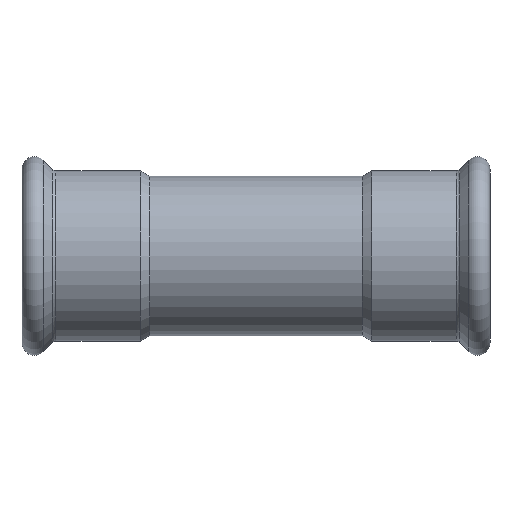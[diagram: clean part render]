
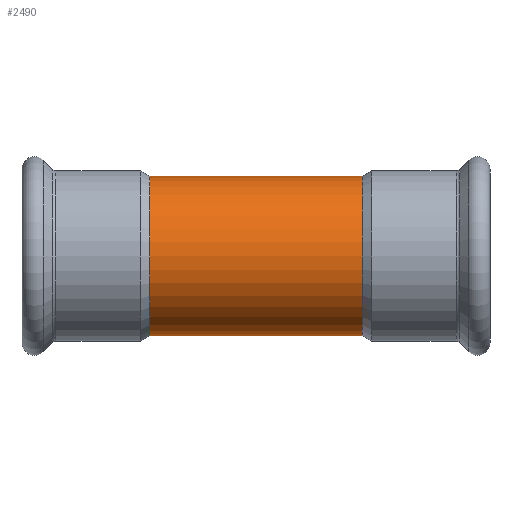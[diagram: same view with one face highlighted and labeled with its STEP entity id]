
A CAD part, front view. The second image highlights one B-rep face of the part: STEP entity #2490.
In plain terms, the highlighted cylindrical face has radius 32 mm (diameter 64 mm), a full revolution.
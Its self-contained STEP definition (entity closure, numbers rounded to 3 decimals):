
#2251=CARTESIAN_POINT('',(0.,26.214,18.353));
#2252=VERTEX_POINT('',#2251);
#2350=CARTESIAN_POINT('',(0.,26.214,18.353));
#2351=CARTESIAN_POINT('',(0.559,26.214,18.353));
#2352=CARTESIAN_POINT('',(1.674,26.246,18.308));
#2353=CARTESIAN_POINT('',(3.15,26.371,18.128));
#2354=CARTESIAN_POINT('',(4.778,26.582,17.817));
#2355=CARTESIAN_POINT('',(6.542,26.905,17.33));
#2356=CARTESIAN_POINT('',(8.399,27.365,16.596));
#2357=CARTESIAN_POINT('',(9.672,27.745,15.948));
#2358=CARTESIAN_POINT('',(10.514,28.018,15.461));
#2359=CARTESIAN_POINT('',(11.256,28.27,14.998));
#2360=CARTESIAN_POINT('',(12.973,28.895,13.795));
#2361=CARTESIAN_POINT('',(14.696,29.626,12.178));
#2362=CARTESIAN_POINT('',(15.97,30.216,10.548));
#2363=CARTESIAN_POINT('',(16.757,30.59,9.418));
#2364=CARTESIAN_POINT('',(17.512,30.962,8.15));
#2365=CARTESIAN_POINT('',(18.377,31.404,6.255));
#2366=CARTESIAN_POINT('',(18.909,31.684,4.594));
#2367=CARTESIAN_POINT('',(19.298,31.891,2.794));
#2368=CARTESIAN_POINT('',(19.457,31.977,1.491));
#2369=CARTESIAN_POINT('',(19.497,31.999,0.438));
#2370=CARTESIAN_POINT('',(19.505,32.003,-0.613));
#2371=CARTESIAN_POINT('',(19.414,31.954,-2.105));
#2372=CARTESIAN_POINT('',(19.139,31.806,-3.597));
#2373=CARTESIAN_POINT('',(18.79,31.621,-4.95));
#2374=CARTESIAN_POINT('',(18.503,31.47,-5.839));
#2375=CARTESIAN_POINT('',(18.026,31.225,-7.026));
#2376=CARTESIAN_POINT('',(17.606,31.011,-7.917));
#2377=CARTESIAN_POINT('',(17.162,30.79,-8.723));
#2378=CARTESIAN_POINT('',(16.449,30.441,-9.907));
#2379=CARTESIAN_POINT('',(15.251,29.874,-11.544));
#2380=CARTESIAN_POINT('',(13.737,29.22,-13.069));
#2381=CARTESIAN_POINT('',(12.67,28.797,-13.957));
#2382=CARTESIAN_POINT('',(11.938,28.518,-14.522));
#2383=CARTESIAN_POINT('',(10.646,28.049,-15.423));
#2384=CARTESIAN_POINT('',(9.189,27.589,-16.221));
#2385=CARTESIAN_POINT('',(7.439,27.123,-16.985));
#2386=CARTESIAN_POINT('',(5.851,26.763,-17.548));
#2387=CARTESIAN_POINT('',(4.176,26.494,-17.947));
#2388=CARTESIAN_POINT('',(2.231,26.277,-18.263));
#2389=CARTESIAN_POINT('',(0.617,26.195,-18.38));
#2390=CARTESIAN_POINT('',(-0.872,26.223,-18.339));
#2391=CARTESIAN_POINT('',(-1.863,26.267,-18.277));
#2392=CARTESIAN_POINT('',(-3.092,26.36,-18.144));
#2393=CARTESIAN_POINT('',(-4.546,26.55,-17.866));
#2394=CARTESIAN_POINT('',(-5.84,26.778,-17.521));
#2395=CARTESIAN_POINT('',(-7.104,27.043,-17.11));
#2396=CARTESIAN_POINT('',(-8.889,27.494,-16.387));
#2397=CARTESIAN_POINT('',(-10.556,28.021,-15.471));
#2398=CARTESIAN_POINT('',(-11.808,28.47,-14.614));
#2399=CARTESIAN_POINT('',(-12.547,28.749,-14.057));
#2400=CARTESIAN_POINT('',(-13.708,29.208,-13.099));
#2401=CARTESIAN_POINT('',(-15.26,29.878,-11.533));
#2402=CARTESIAN_POINT('',(-16.451,30.442,-9.904));
#2403=CARTESIAN_POINT('',(-17.103,30.761,-8.821));
#2404=CARTESIAN_POINT('',(-17.329,30.874,-8.419));
#2405=CARTESIAN_POINT('',(-17.682,31.049,-7.757));
#2406=CARTESIAN_POINT('',(-18.324,31.376,-6.394));
#2407=CARTESIAN_POINT('',(-18.877,31.667,-4.742));
#2408=CARTESIAN_POINT('',(-19.173,31.825,-3.372));
#2409=CARTESIAN_POINT('',(-19.334,31.91,-2.452));
#2410=CARTESIAN_POINT('',(-19.476,31.987,-1.293));
#2411=CARTESIAN_POINT('',(-19.519,32.01,0.113));
#2412=CARTESIAN_POINT('',(-19.443,31.969,1.628));
#2413=CARTESIAN_POINT('',(-19.273,31.878,2.906));
#2414=CARTESIAN_POINT('',(-18.979,31.721,4.271));
#2415=CARTESIAN_POINT('',(-18.623,31.533,5.503));
#2416=CARTESIAN_POINT('',(-18.086,31.254,6.921));
#2417=CARTESIAN_POINT('',(-17.478,30.946,8.177));
#2418=CARTESIAN_POINT('',(-16.868,30.646,9.224));
#2419=CARTESIAN_POINT('',(-16.428,30.434,9.896));
#2420=CARTESIAN_POINT('',(-15.895,30.181,10.646));
#2421=CARTESIAN_POINT('',(-14.856,29.702,11.959));
#2422=CARTESIAN_POINT('',(-13.533,29.133,13.269));
#2423=CARTESIAN_POINT('',(-11.894,28.497,14.571));
#2424=CARTESIAN_POINT('',(-10.446,27.982,15.542));
#2425=CARTESIAN_POINT('',(-8.393,27.355,16.619));
#2426=CARTESIAN_POINT('',(-6.373,26.868,17.387));
#2427=CARTESIAN_POINT('',(-4.601,26.559,17.851));
#2428=CARTESIAN_POINT('',(-2.605,26.3,18.232));
#2429=CARTESIAN_POINT('',(-1.118,26.214,18.353));
#2430=CARTESIAN_POINT('',(0.,26.214,18.353));
#2431=CARTESIAN_POINT('',(0.,26.214,18.353));
#2432=CARTESIAN_POINT('',(0.,26.214,18.353));
#2433=CARTESIAN_POINT('',(0.,26.214,18.353));
#2434=B_SPLINE_CURVE_WITH_KNOTS('',3,(#2350,#2351,#2352,#2353,#2354,#2355,#2356,#2357,#2358,#2359,#2360,#2361,#2362,#2363,#2364,#2365,#2366,#2367,#2368,#2369,#2370,#2371,#2372,#2373,#2374,#2375,#2376,#2377,#2378,#2379,#2380,#2381,#2382,#2383,#2384,#2385,#2386,#2387,#2388,#2389,#2390,#2391,#2392,#2393,#2394,#2395,#2396,#2397,#2398,#2399,#2400,#2401,#2402,#2403,#2404,#2405,#2406,#2407,#2408,#2409,#2410,#2411,#2412,#2413,#2414,#2415,#2416,#2417,#2418,#2419,#2420,#2421,#2422,#2423,#2424,#2425,#2426,#2427,#2428,#2429,#2430,#2431,#2432,#2433),.UNSPECIFIED.,.T.,.U.,(4,1,1,1,1,1,1,1,1,1,1,1,1,1,1,1,1,1,1,1,1,1,1,1,1,1,1,1,1,1,1,1,1,1,1,1,1,1,1,1,1,1,1,1,1,1,1,1,1,1,1,1,1,1,1,1,1,1,1,1,1,1,1,1,1,1,1,1,1,1,1,1,1,1,1,1,1,1,3,4),(-10.813,-10.669,-10.524,-10.427,-10.234,-10.041,-9.896,-9.848,-9.775,-9.655,-9.269,-9.124,-9.076,-8.882,-8.713,-8.496,-8.4,-8.207,-8.134,-8.11,-7.917,-7.724,-7.692,-7.531,-7.466,-7.338,-7.257,-7.209,-6.951,-6.694,-6.614,-6.565,-6.437,-6.179,-6.115,-5.922,-5.729,-5.664,-5.407,-5.31,-5.278,-5.149,-4.988,-4.892,-4.795,-4.634,-4.377,-4.28,-4.216,-4.119,-3.862,-3.604,-3.556,-3.508,-3.476,-3.347,-3.09,-2.993,-2.961,-2.832,-2.671,-2.575,-2.414,-2.317,-2.188,-2.06,-1.899,-1.802,-1.722,-1.674,-1.545,-1.255,-1.159,-0.965,-0.772,-0.531,-0.386,-0.29,0.0,0.),.UNSPECIFIED.);
#2435=EDGE_CURVE('',#2252,#2252,#2434,.T.);
#2460=CARTESIAN_POINT('',(0.,0.,0.0));
#2461=DIRECTION('',(1.0,0.,0.0));
#2462=DIRECTION('',(0.0,1.0,0.0));
#2463=AXIS2_PLACEMENT_3D('',#2460,#2461,#2462);
#2464=CYLINDRICAL_SURFACE('',#2463,32.);
#2465=CARTESIAN_POINT('',(-42.654,32.,0.0));
#2466=VERTEX_POINT('',#2465);
#2467=CARTESIAN_POINT('',(-42.654,0.,0.0));
#2468=DIRECTION('',(1.0,0.0,0.0));
#2469=DIRECTION('',(0.0,1.0,0.0));
#2470=AXIS2_PLACEMENT_3D('',#2467,#2468,#2469);
#2471=CIRCLE('',#2470,32.);
#2472=EDGE_CURVE('',#2466,#2466,#2471,.T.);
#2473=ORIENTED_EDGE('',*,*,#2472,.T.);
#2474=EDGE_LOOP('',(#2473));
#2475=FACE_OUTER_BOUND('',#2474,.T.);
#2476=CARTESIAN_POINT('',(42.654,32.,0.0));
#2477=VERTEX_POINT('',#2476);
#2478=CARTESIAN_POINT('',(42.654,0.,0.0));
#2479=DIRECTION('',(1.0,0.0,0.0));
#2480=DIRECTION('',(0.0,1.0,0.0));
#2481=AXIS2_PLACEMENT_3D('',#2478,#2479,#2480);
#2482=CIRCLE('',#2481,32.);
#2483=EDGE_CURVE('',#2477,#2477,#2482,.T.);
#2484=ORIENTED_EDGE('',*,*,#2483,.F.);
#2485=EDGE_LOOP('',(#2484));
#2486=FACE_BOUND('',#2485,.T.);
#2487=ORIENTED_EDGE('',*,*,#2435,.F.);
#2488=EDGE_LOOP('',(#2487));
#2489=FACE_BOUND('',#2488,.T.);
#2490=ADVANCED_FACE('',(#2475,#2486,#2489),#2464,.T.);
